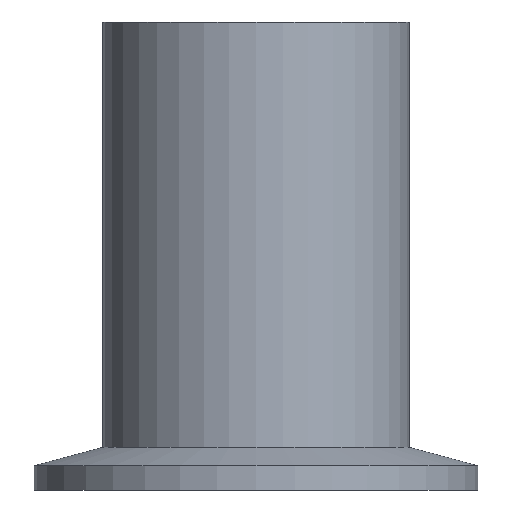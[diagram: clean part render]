
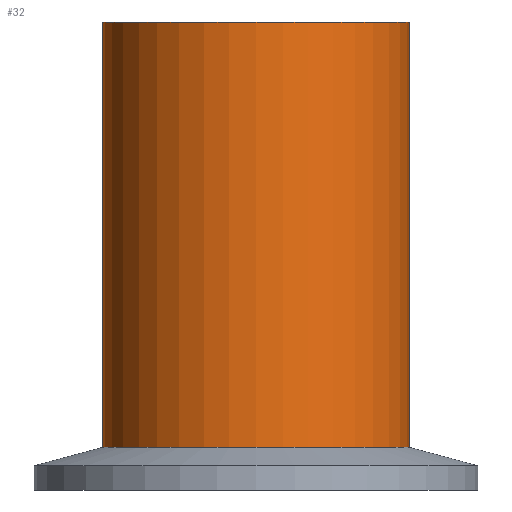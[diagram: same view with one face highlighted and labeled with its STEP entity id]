
A CAD part, front view. The second image highlights one B-rep face of the part: STEP entity #32.
In plain terms, the highlighted cylindrical face has radius 19 mm (diameter 38 mm), a full revolution.
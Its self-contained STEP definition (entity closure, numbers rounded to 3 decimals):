
#32 = ADVANCED_FACE( '', ( #65, #66 ), #67, .T. );
#65 = FACE_OUTER_BOUND( '', #104, .T. );
#66 = FACE_OUTER_BOUND( '', #105, .T. );
#67 = CYLINDRICAL_SURFACE( '', #106, 19. );
#104 = EDGE_LOOP( '', ( #137 ) );
#105 = EDGE_LOOP( '', ( #138 ) );
#106 = AXIS2_PLACEMENT_3D( '', #139, #140, #141 );
#137 = ORIENTED_EDGE( '', *, *, #185, .F. );
#138 = ORIENTED_EDGE( '', *, *, #186, .T. );
#139 = CARTESIAN_POINT( '', ( 0., 0., 54. ) );
#140 = DIRECTION( '', ( 0., 0., -1. ) );
#141 = DIRECTION( '', ( 1., 0., 0. ) );
#185 = EDGE_CURVE( '', #201, #201, #202, .T. );
#186 = EDGE_CURVE( '', #203, #203, #204, .T. );
#201 = VERTEX_POINT( '', #225 );
#202 = CIRCLE( '', #226, 19. );
#203 = VERTEX_POINT( '', #227 );
#204 = CIRCLE( '', #228, 19. );
#225 = CARTESIAN_POINT( '', ( 19., 0., 58. ) );
#226 = AXIS2_PLACEMENT_3D( '', #248, #249, #250 );
#227 = CARTESIAN_POINT( '', ( 19., 0., 5.278 ) );
#228 = AXIS2_PLACEMENT_3D( '', #251, #252, #253 );
#248 = CARTESIAN_POINT( '', ( 0., 0., 58. ) );
#249 = DIRECTION( '', ( 0., 0., 1. ) );
#250 = DIRECTION( '', ( 1., 0., 0. ) );
#251 = CARTESIAN_POINT( '', ( 0., 0., 5.278 ) );
#252 = DIRECTION( '', ( 0., 0., 1. ) );
#253 = DIRECTION( '', ( 1., 0., 0. ) );
